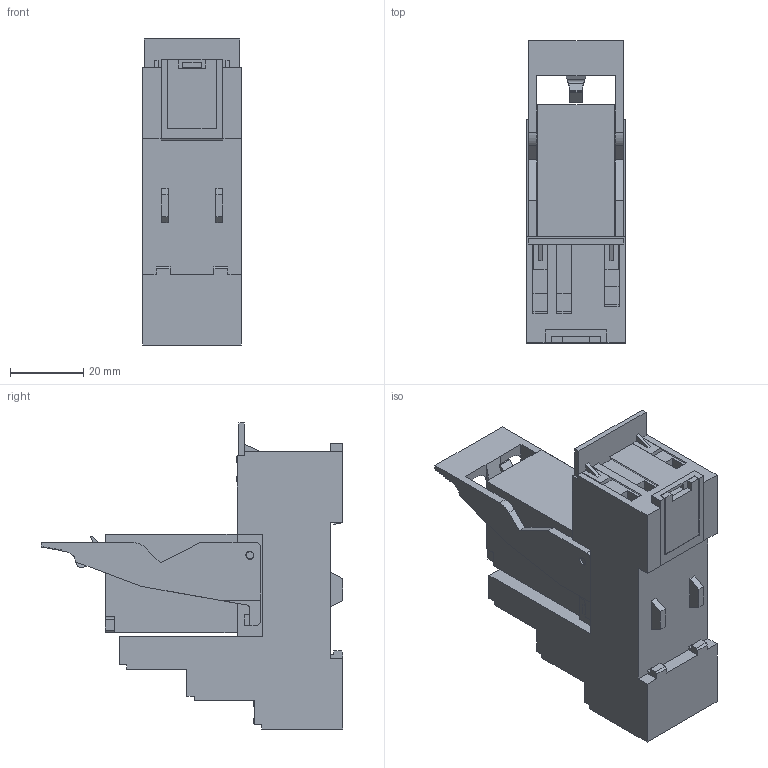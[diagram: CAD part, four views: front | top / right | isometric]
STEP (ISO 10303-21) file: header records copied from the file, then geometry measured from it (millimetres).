
FILE_DESCRIPTION (( 'STEP AP203' ), '1' );
FILE_NAME ('PRT55 - PRY.STEP', '2019-03-27T12:44:26', ( '' ), ( '' ), 'SwSTEP 2.0', 'SolidWorks 2012', '' );
FILE_SCHEMA (( 'CONFIG_CONTROL_DESIGN' ));
Products named in the file (1): PRT55 - PRY
Bounding box: 27 x 82.4 x 83.5 mm (x, y, z)
Volume: 83828.7 mm3; surface area: 24502.7 mm2
Topology: 1 solids, 1 shells, 1365 faces, 3706 edges, 2464 vertices
Faces by surface type: plane 1045, bspline 239, cylinder 81
Entity records: 55865 total; most frequent: CARTESIAN_POINT 22827, ORIENTED_EDGE 7412, DIRECTION 5624, EDGE_CURVE 3706, VECTOR 3062, LINE 3062, VERTEX_POINT 2464, EDGE_LOOP 1490
